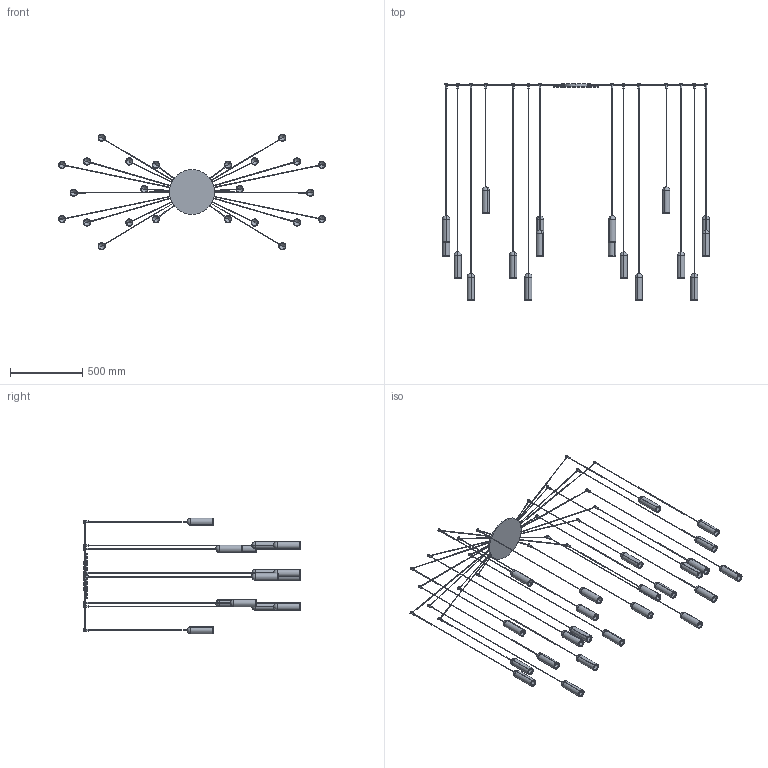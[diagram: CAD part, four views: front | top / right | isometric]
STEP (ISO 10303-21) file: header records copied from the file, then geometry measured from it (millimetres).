
FILE_DESCRIPTION (( 'STEP AP203' ), '1' );
FILE_NAME ('NANB3-00-NANUM 24 B ROSONE CENTRALE.STEP', '2024-07-31T07:25:24', ( '' ), ( '' ), 'SwSTEP 2.0', 'SolidWorks 2022', '' );
FILE_SCHEMA (( 'CONFIG_CONTROL_DESIGN' ));
Length unit declared in the file: millimetre
Products named in the file (7): NANUM_LAMPADA SINGOLA_H=1650; NANUM_Rosone diam.310_24B<A macchina>; NANUM_LAMPADA SINGOLA_H=1500; NANUM_LAMPADA SINGOLA_H=1800; NANUM_LAMPADA SINGOLA_H=1900; NANB3-00-NANUM 24 B ROSONE CENTRALE; NANUM_LAMPADA SINGOLA_H=2100
Assembly tree (25 placements, depth 2):
  NANB3-00-NANUM 24 B ROSONE CENTRALE
    NANUM_Rosone diam.310_24B<A macchina>
    NANUM_LAMPADA SINGOLA_H=1800  x4
    NANUM_LAMPADA SINGOLA_H=2100  x4
    NANUM_LAMPADA SINGOLA_H=1650  x6
    NANUM_LAMPADA SINGOLA_H=1500  x6
    NANUM_LAMPADA SINGOLA_H=1900  x4
Bounding box: 1849.98 x 1500 x 800.99 mm (x, y, z)
Volume: 3495355.9 mm3; surface area: 2147942.4 mm2
Topology: 73 solids, 73 shells, 931 faces, 2008 edges, 1128 vertices
Faces by surface type: cylinder 518, plane 173, cone 96, sphere 96, torus 48
Entity records: 9333 total; most frequent: CARTESIAN_POINT 1965, DIRECTION 1386, ORIENTED_EDGE 1160, AXIS2_PLACEMENT_3D 597, EDGE_CURVE 580, VERTEX_POINT 348, EDGE_LOOP 344, FACE_OUTER_BOUND 323
